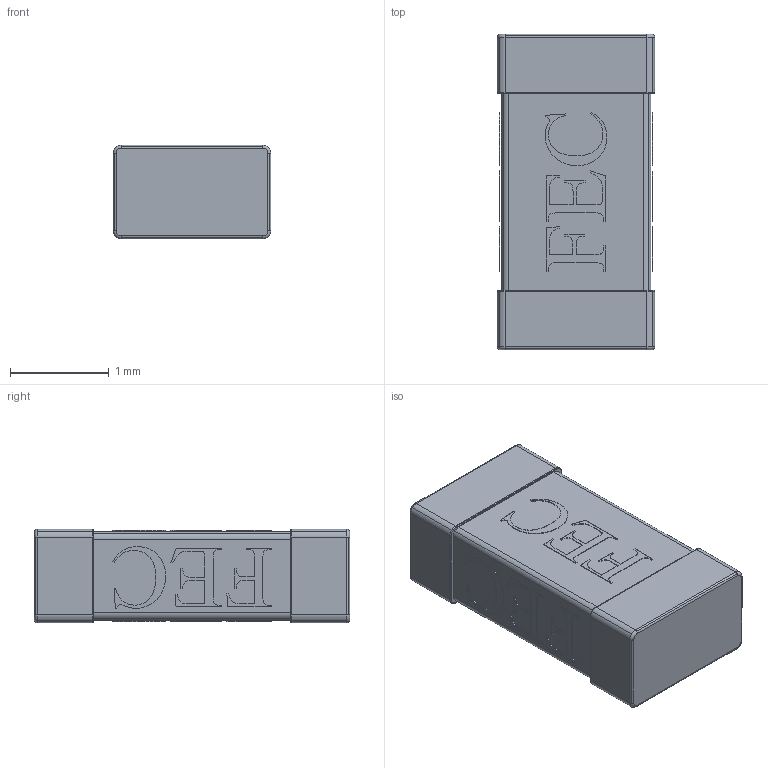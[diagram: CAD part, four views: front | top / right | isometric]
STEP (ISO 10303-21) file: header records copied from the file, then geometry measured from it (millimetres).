
FILE_DESCRIPTION(('STEP AP214'),'1');
FILE_NAME('tmp0.step','2023-08-10T00:35:31',(' '),(' '),'Spatial InterOp 3D',' ',' ');
FILE_SCHEMA(('AUTOMOTIVE_DESIGN { 1 0 10303 214 1 1 1 1 }'));
Length unit declared in the file: millimetre
Products named in the file (1): 1
Bounding box: 1.6 x 3.2 x 0.95 mm (x, y, z)
Volume: 4.6 mm3; surface area: 26.3 mm2
Topology: 15 solids, 15 shells, 1102 faces, 3184 edges, 2112 vertices
Faces by surface type: plane 1030, cylinder 56, torus 16
Entity records: 35714 total; most frequent: CARTESIAN_POINT 6413, ORIENTED_EDGE 6368, DIRECTION 5546, EDGE_CURVE 3184, LINE 3056, VECTOR 3056, VERTEX_POINT 2112, AXIS2_PLACEMENT_3D 1245
